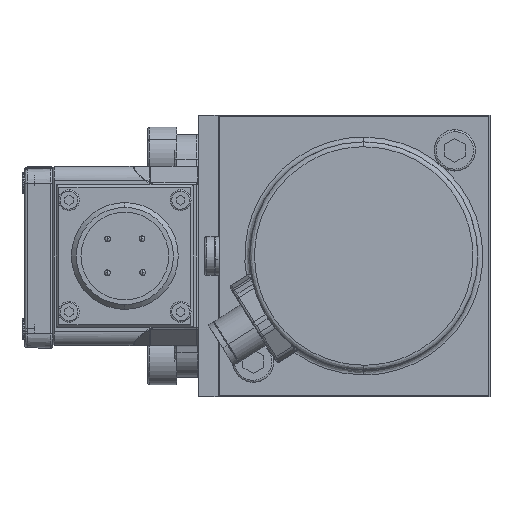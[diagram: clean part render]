
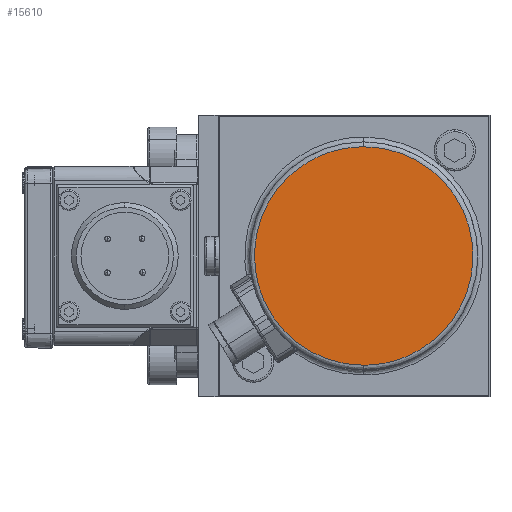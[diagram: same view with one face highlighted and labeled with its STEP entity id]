
A CAD part, left-side view. The second image highlights one B-rep face of the part: STEP entity #15610.
In plain terms, the highlighted planar face has unit normal (-1, 0, 0) as drawn and (0, 0, 1) by its records, which use the part's own axes.
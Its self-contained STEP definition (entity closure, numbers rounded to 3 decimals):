
#15610 = ADVANCED_FACE ( 'NONE', ( #29713 ), #29712, .F. ) ;
#15611 = EDGE_LOOP ( 'NONE', ( #15612, #15616 ) ) ;
#15612 = ORIENTED_EDGE ( 'NONE', *, *, #15613, .F. ) ;
#15613 = EDGE_CURVE ( 'NONE', #15614, #15615, #29706, .T. ) ;
#15614 = VERTEX_POINT ( 'NONE', #29705 ) ;
#15615 = VERTEX_POINT ( 'NONE', #29707 ) ;
#15616 = ORIENTED_EDGE ( 'NONE', *, *, #15617, .F. ) ;
#15617 = EDGE_CURVE ( 'NONE', #15615, #15614, #29729, .T. ) ;
#29701 = CARTESIAN_POINT ( 'NONE',  ( 22.5, 2., 57. ) ) ;
#29702 = CARTESIAN_POINT ( 'NONE',  ( 22.5, 47., 57. ) ) ;
#29703 = CARTESIAN_POINT ( 'NONE',  ( -22.5, 47., 57. ) ) ;
#29704 = CARTESIAN_POINT ( 'NONE',  ( -22.5, 2., 57. ) ) ;
#29705 = CARTESIAN_POINT ( 'NONE',  ( -22.5, 2., 57. ) ) ;
#29706 =( BOUNDED_CURVE ( )  B_SPLINE_CURVE ( 3, ( #29704, #29703, #29702, #29701 ),
 .UNSPECIFIED., .F., .F. ) 
 B_SPLINE_CURVE_WITH_KNOTS ( ( 4, 4 ),
 ( 0., 1. ),
 .UNSPECIFIED. ) 
 CURVE ( )  GEOMETRIC_REPRESENTATION_ITEM ( )  RATIONAL_B_SPLINE_CURVE ( ( 1., 0.333, 0.333, 1. ) ) 
 REPRESENTATION_ITEM ( '' )  );
#29707 = CARTESIAN_POINT ( 'NONE',  ( 22.5, 2., 57. ) ) ;
#29708 = DIRECTION ( 'NONE',  ( -1., 0., 0. ) ) ;
#29709 = DIRECTION ( 'NONE',  ( 0., 0., -1. ) ) ;
#29710 = CARTESIAN_POINT ( 'NONE',  ( 0., 25.5, 57. ) ) ;
#29711 = AXIS2_PLACEMENT_3D ( 'NONE', #29710, #29709, #29708 ) ;
#29712 = PLANE ( 'NONE',  #29711 ) ;
#29713 = FACE_OUTER_BOUND ( 'NONE', #15611, .T. ) ;
#29725 = CARTESIAN_POINT ( 'NONE',  ( -22.5, 2., 57. ) ) ;
#29726 = CARTESIAN_POINT ( 'NONE',  ( -22.5, -43., 57. ) ) ;
#29727 = CARTESIAN_POINT ( 'NONE',  ( 22.5, -43., 57. ) ) ;
#29728 = CARTESIAN_POINT ( 'NONE',  ( 22.5, 2., 57. ) ) ;
#29729 =( BOUNDED_CURVE ( )  B_SPLINE_CURVE ( 3, ( #29728, #29727, #29726, #29725 ),
 .UNSPECIFIED., .F., .T. ) 
 B_SPLINE_CURVE_WITH_KNOTS ( ( 4, 4 ),
 ( 0., 1. ),
 .UNSPECIFIED. ) 
 CURVE ( )  GEOMETRIC_REPRESENTATION_ITEM ( )  RATIONAL_B_SPLINE_CURVE ( ( 1., 0.333, 0.333, 1. ) ) 
 REPRESENTATION_ITEM ( '' )  );
